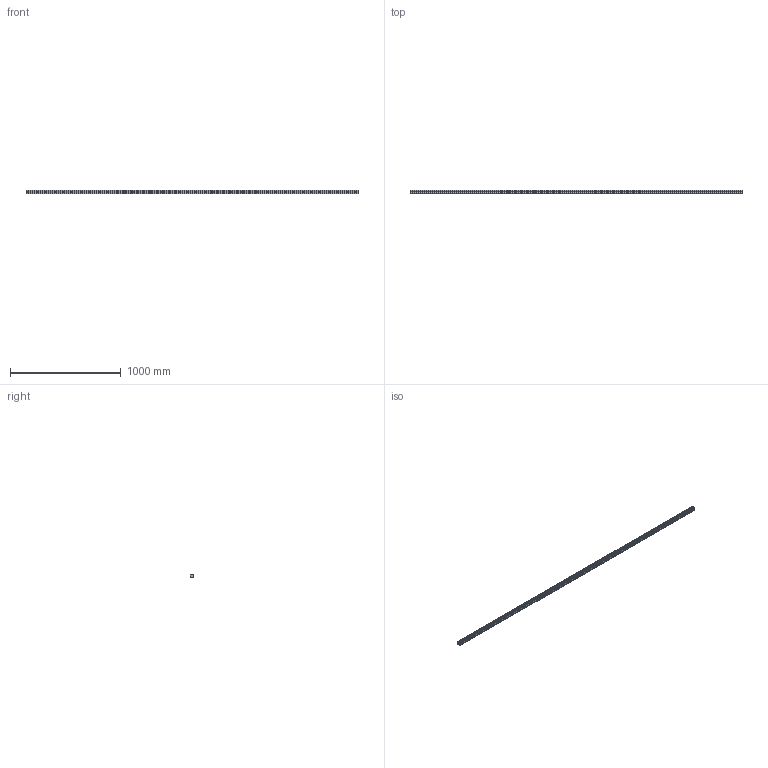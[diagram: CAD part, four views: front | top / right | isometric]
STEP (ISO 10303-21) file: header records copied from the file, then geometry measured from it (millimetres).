
FILE_DESCRIPTION(('CATIA V5 STEP Exchange'),'2;1');
FILE_NAME('C:\Users\14044\Desktop\HSV35C1SS+3000L\HSV35_RAIL_3000L.stp','2015-12-05T02:13:49+00:00',('none'),('none'),'Version 5-6 Release 2012','CATIA V5 STEP AP203','none');
FILE_SCHEMA(('CONFIG_CONTROL_DESIGN'));
Length unit declared in the file: millimetre
Products named in the file (1): HSV35_RAIL_3000L
Bounding box: 3000 x 29 x 34 mm (x, y, z)
Volume: 2465593.8 mm3; surface area: 422773.9 mm2
Topology: 1 solids, 1 shells, 224 faces, 552 edges, 485 vertices
Faces by surface type: cylinder 156, plane 68
Entity records: 6183 total; most frequent: CARTESIAN_POINT 1141, ORIENTED_EDGE 1104, DIRECTION 758, EDGE_CURVE 552, AXIS2_PLACEMENT_3D 416, VERTEX_POINT 368, EDGE_LOOP 338, CIRCLE 312
